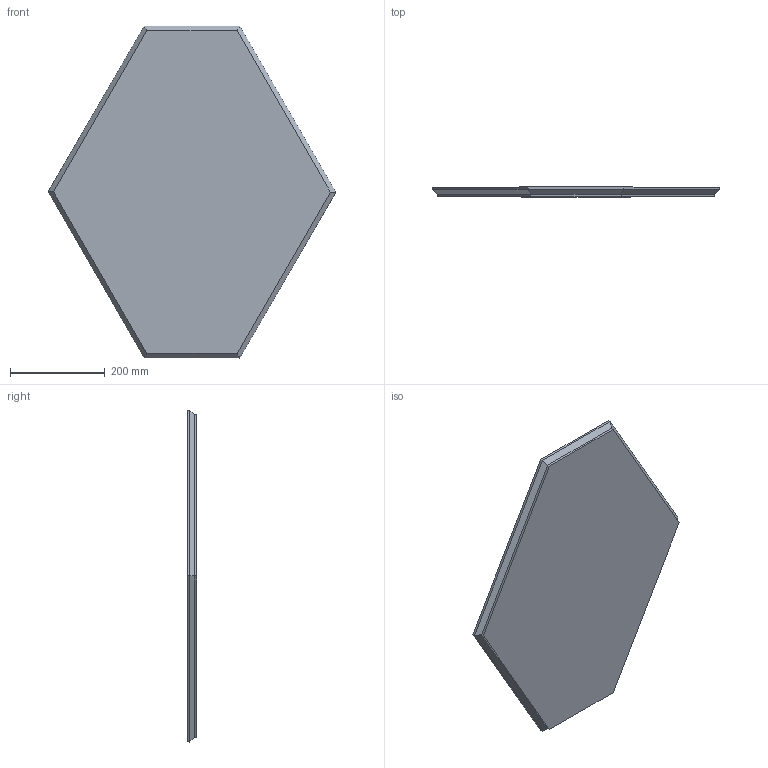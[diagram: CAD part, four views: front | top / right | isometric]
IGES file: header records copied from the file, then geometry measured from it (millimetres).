
Start section: SolidWorks IGES file using analytic representation for surfaces
Global section: file name: Y:\eforma\TECNICO\SOLIDWORKS\E-FORMA\4-SPECCHI\GEO\02 parts\GEO01_GeoA_70x60,5.IGS; native system: SolidWorks 2022; preprocessor: SolidWorks 2022; author: eforma.tech; date: 240806.092103; units: millimetre
Bounding box: 606.5 x 20 x 700.01 mm (x, y, z)
Volume: 5413111.6 mm3; surface area: 1131721.4 mm2
Topology: 4 solids, 4 shells, 122 faces, 316 edges, 202 vertices
Faces by surface type: plane 70, revolution 52
